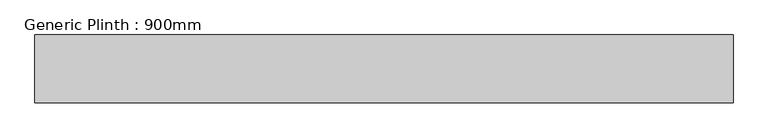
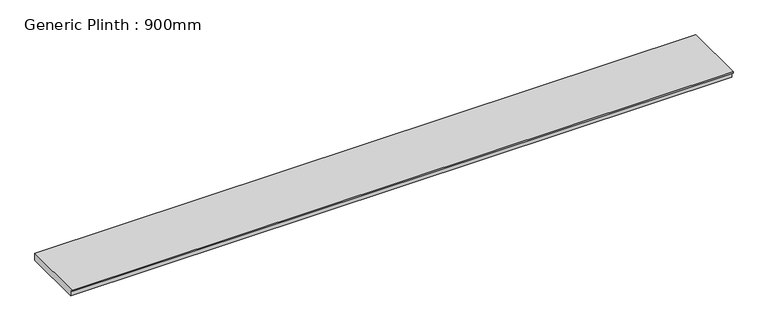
"""IFC4 building model written with IfcOpenShell, lengths in millimetres: furniture geometry, Generic Plinth : 900mm."""

from ifc_helpers import new_model, si_unit, frame, origin, place, context, project, spatial, polyline, outline, extrude, source, transform, mapped, element, save


def generic_plinth_900mm_24ad1541(model_context):
    return source(origin(), model_context, "Body", "SweptSolid", [
        extrude(outline(polyline([(-900.0, 81.0), (-900.0, 100.0), (0.0, 100.0), (0.0, 0.0), (-865.0, 0.0), (-865.0, 81.0), (-900.0, 81.0)])), frame((-4606.2622951, 0.0, 0.0), z_axis=(1.0, 0.0, 0.0), x_axis=(0.0, 1.0, 0.0)), (0.0, 0.0, 1.0), 9250.0),
    ])


if __name__ == "__main__":
    model = new_model("IFC4")
    model_context = context("Model", 3, world=origin())
    ifc_project = project(units=[si_unit("LENGTHUNIT", "METRE", prefix="MILLI")], contexts=[model_context])
    site = spatial("IfcSite", under=ifc_project)
    building = spatial("IfcBuilding", under=site)
    placement = place(None, origin())
    generic_plinth_900mm_shape = generic_plinth_900mm_24ad1541(model_context)
    element("IfcFurniture", 1, ObjectType="Generic Plinth : 900mm", at=placement, inside=building, context=model_context, shape_type="MappedRepresentation", body=[
        mapped(generic_plinth_900mm_shape, transform((0.0, 0.0, 0.0), x_axis=(1.0, 0.0, 0.0), y_axis=(0.0, 1.0, 0.0), z_axis=(0.0, 0.0, 1.0))),
    ])
    save(model, "model.ifc")
